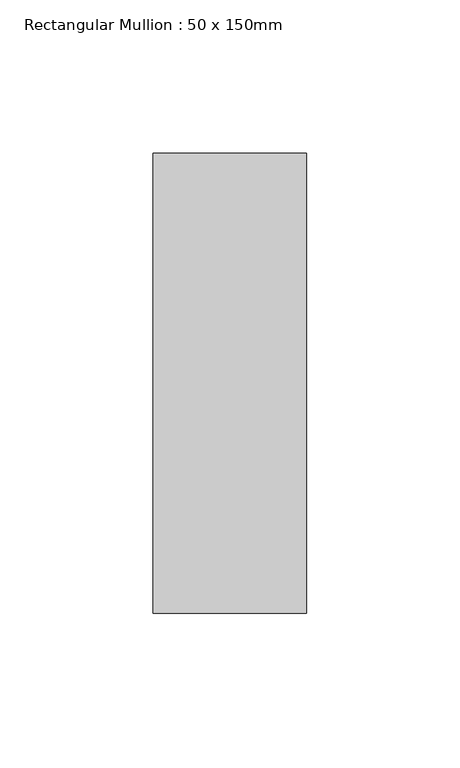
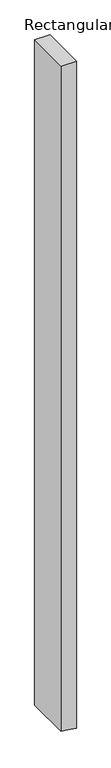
"""IFC4 building model written with IfcOpenShell, lengths in millimetres: member geometry, Rectangular Mullion : 50 x 150mm."""

from ifc_helpers import new_model, si_unit, frame, origin, place, context, project, spatial, polyline, outline, extrude, source, transform, mapped, element, save


def rectangular_mullion_50_x_150mm_7e712f70(model_context):
    return source(origin(), model_context, "Body", "SweptSolid", [
        extrude(outline(polyline([(0.0, 25.0), (0.0, -25.0), (-2308.8888265, -25.0), (-2312.3689857, 5.6423937), (-2314.5674939, 25.0), (0.0, 25.0)])), frame((0.0, -75.0, 0.0), z_axis=(0.0, 1.0, 0.0), x_axis=(0.0, 0.0, 1.0)), (0.0, 0.0, 1.0), 150.0),
    ])


if __name__ == "__main__":
    model = new_model("IFC4")
    model_context = context("Model", 3, world=origin())
    ifc_project = project(units=[si_unit("LENGTHUNIT", "METRE", prefix="MILLI")], contexts=[model_context])
    site = spatial("IfcSite", under=ifc_project)
    building = spatial("IfcBuilding", under=site)
    placement = place(None, origin())
    rectangular_mullion_50_x_150mm_shape = rectangular_mullion_50_x_150mm_7e712f70(model_context)
    element("IfcMember", 1, ObjectType="Rectangular Mullion : 50 x 150mm", at=placement, inside=building, context=model_context, shape_type="MappedRepresentation", body=[
        mapped(rectangular_mullion_50_x_150mm_shape, transform((0.0, 0.0, 0.0), x_axis=(1.0, 0.0, 0.0), y_axis=(0.0, 1.0, 0.0), z_axis=(0.0, 0.0, 1.0))),
    ])
    save(model, "model.ifc")
